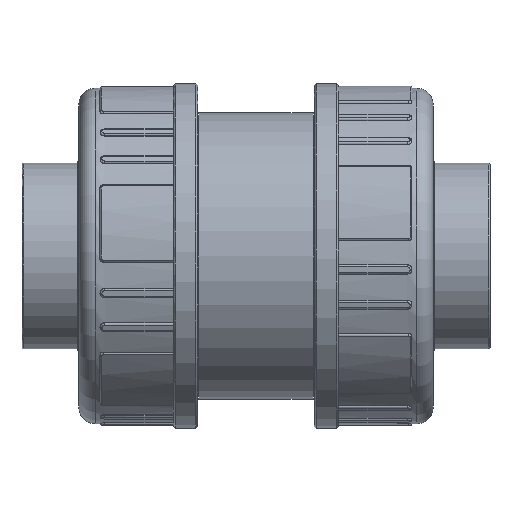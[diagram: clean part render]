
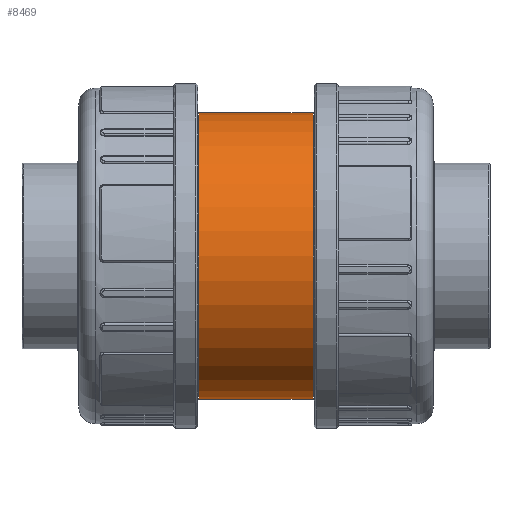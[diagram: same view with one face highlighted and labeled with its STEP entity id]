
A CAD part, left-side view. The second image highlights one B-rep face of the part: STEP entity #8469.
In plain terms, the highlighted cylindrical face has radius 69.75 mm (diameter 139.5 mm), a full revolution.
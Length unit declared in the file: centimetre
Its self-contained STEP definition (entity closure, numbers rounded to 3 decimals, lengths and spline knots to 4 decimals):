
#314=B_SPLINE_CURVE_WITH_KNOTS('',3,(#58087,#58088,#58089,#58090,#58091,
#58092,#58093,#58094,#58095,#58096,#58097,#58098,#58099,#58100,#58101,#58102,
#58103,#58104,#58105,#58106,#58107,#58108,#58109,#58110,#58111,#58112,#58113,
#58114,#58115,#58116,#58117,#58118,#58119,#58120,#58121,#58122,#58123,#58124,
#58125,#58126,#58127,#58128,#58129,#58130,#58131,#58132,#58133,#58134,#58135,
#58136,#58137,#58138,#58139,#58140,#58141,#58142,#58143,#58144,#58145,#58146,
#58147,#58148,#58149,#58150,#58151,#58152),.UNSPECIFIED.,.T.,.F.,(4,2,2,
2,2,2,2,2,2,2,2,2,2,2,2,2,2,2,2,2,2,2,2,2,2,2,2,2,2,2,2,2,4),(0.,0.4185,
0.837,1.2555,1.674,2.0923,2.5106,
2.929,3.3473,3.7657,4.184,4.6023,
5.0207,5.4392,5.8577,6.2762,6.6946,
7.1131,7.5316,7.9501,8.3686,8.787,
9.2053,9.6236,10.042,10.4603,10.8786,
11.297,11.7153,12.1338,12.5523,12.9708,
13.3893),.UNSPECIFIED.);
#1599=CYLINDRICAL_SURFACE('',#9250,6.975);
#1657=FACE_BOUND('',#2684,.T.);
#1658=FACE_BOUND('',#2685,.T.);
#2144=FACE_OUTER_BOUND('',#2683,.T.);
#2683=EDGE_LOOP('',(#7337));
#2684=EDGE_LOOP('',(#7338));
#2685=EDGE_LOOP('',(#7339));
#3115=CIRCLE('',#9251,6.975);
#3116=CIRCLE('',#9252,6.975);
#3856=VERTEX_POINT('',#58084);
#3857=VERTEX_POINT('',#58086);
#3858=VERTEX_POINT('',#58153);
#5023=EDGE_CURVE('',#3856,#3856,#3115,.T.);
#5024=EDGE_CURVE('',#3857,#3857,#314,.T.);
#5025=EDGE_CURVE('',#3858,#3858,#3116,.T.);
#7337=ORIENTED_EDGE('',*,*,#5023,.F.);
#7338=ORIENTED_EDGE('',*,*,#5024,.T.);
#7339=ORIENTED_EDGE('',*,*,#5025,.T.);
#8469=ADVANCED_FACE('',(#2144,#1657,#1658),#1599,.T.);
#9250=AXIS2_PLACEMENT_3D('',#58083,#11290,#11291);
#9251=AXIS2_PLACEMENT_3D('',#58085,#11292,#11293);
#9252=AXIS2_PLACEMENT_3D('',#58154,#11294,#11295);
#11290=DIRECTION('center_axis',(0.,-1.,0.));
#11291=DIRECTION('ref_axis',(-1.,0.,0.));
#11292=DIRECTION('center_axis',(0.,-1.,0.));
#11293=DIRECTION('ref_axis',(1.,0.,0.));
#11294=DIRECTION('center_axis',(0.,-1.,0.));
#11295=DIRECTION('ref_axis',(1.,0.,0.));
#58083=CARTESIAN_POINT('Origin',(0.,0.005,
0.));
#58084=CARTESIAN_POINT('',(-6.975,-2.78,0.));
#58085=CARTESIAN_POINT('Origin',(0.,-2.78,0.));
#58086=CARTESIAN_POINT('',(6.6173,0.,-2.205));
#58087=CARTESIAN_POINT('Ctrl Pts',(6.6173,0.,
-2.205));
#58088=CARTESIAN_POINT('Ctrl Pts',(6.6173,-0.1395,
-2.205));
#58089=CARTESIAN_POINT('Ctrl Pts',(6.6218,-0.2834,
-2.1915));
#58090=CARTESIAN_POINT('Ctrl Pts',(6.6402,-0.5691,
-2.1353));
#58091=CARTESIAN_POINT('Ctrl Pts',(6.654,-0.7108,
-2.0925));
#58092=CARTESIAN_POINT('Ctrl Pts',(6.6884,-0.9821,-1.9797));
#58093=CARTESIAN_POINT('Ctrl Pts',(6.709,-1.1119,-1.9096));
#58094=CARTESIAN_POINT('Ctrl Pts',(6.7529,-1.3518,-1.748));
#58095=CARTESIAN_POINT('Ctrl Pts',(6.7762,-1.4618,-1.6565));
#58096=CARTESIAN_POINT('Ctrl Pts',(6.8208,-1.6565,-1.4618));
#58097=CARTESIAN_POINT('Ctrl Pts',(6.8438,-1.748,-1.3518));
#58098=CARTESIAN_POINT('Ctrl Pts',(6.8869,-1.9096,-1.112));
#58099=CARTESIAN_POINT('Ctrl Pts',(6.9069,-1.9796,-0.9821));
#58100=CARTESIAN_POINT('Ctrl Pts',(6.94,-2.0925,-0.7108));
#58101=CARTESIAN_POINT('Ctrl Pts',(6.9532,-2.1353,-0.569));
#58102=CARTESIAN_POINT('Ctrl Pts',(6.9707,-2.1916,-0.2834));
#58103=CARTESIAN_POINT('Ctrl Pts',(6.975,-2.205,-0.1394));
#58104=CARTESIAN_POINT('Ctrl Pts',(6.975,-2.205,0.1394));
#58105=CARTESIAN_POINT('Ctrl Pts',(6.9707,-2.1916,0.2834));
#58106=CARTESIAN_POINT('Ctrl Pts',(6.9532,-2.1353,0.569));
#58107=CARTESIAN_POINT('Ctrl Pts',(6.94,-2.0925,0.7108));
#58108=CARTESIAN_POINT('Ctrl Pts',(6.9069,-1.9796,0.9821));
#58109=CARTESIAN_POINT('Ctrl Pts',(6.8869,-1.9096,1.112));
#58110=CARTESIAN_POINT('Ctrl Pts',(6.8438,-1.748,1.3518));
#58111=CARTESIAN_POINT('Ctrl Pts',(6.8208,-1.6565,1.4618));
#58112=CARTESIAN_POINT('Ctrl Pts',(6.7762,-1.4618,1.6565));
#58113=CARTESIAN_POINT('Ctrl Pts',(6.7529,-1.3518,1.748));
#58114=CARTESIAN_POINT('Ctrl Pts',(6.709,-1.1119,1.9096));
#58115=CARTESIAN_POINT('Ctrl Pts',(6.6884,-0.9821,1.9797));
#58116=CARTESIAN_POINT('Ctrl Pts',(6.654,-0.7108,
2.0925));
#58117=CARTESIAN_POINT('Ctrl Pts',(6.6402,-0.5691,
2.1353));
#58118=CARTESIAN_POINT('Ctrl Pts',(6.6218,-0.2834,
2.1915));
#58119=CARTESIAN_POINT('Ctrl Pts',(6.6173,-0.1395,
2.205));
#58120=CARTESIAN_POINT('Ctrl Pts',(6.6173,0.1395,2.205));
#58121=CARTESIAN_POINT('Ctrl Pts',(6.6218,0.2834,2.1915));
#58122=CARTESIAN_POINT('Ctrl Pts',(6.6402,0.5691,2.1353));
#58123=CARTESIAN_POINT('Ctrl Pts',(6.654,0.7108,2.0925));
#58124=CARTESIAN_POINT('Ctrl Pts',(6.6884,0.9821,1.9797));
#58125=CARTESIAN_POINT('Ctrl Pts',(6.709,1.1119,1.9096));
#58126=CARTESIAN_POINT('Ctrl Pts',(6.7529,1.3518,1.748));
#58127=CARTESIAN_POINT('Ctrl Pts',(6.7762,1.4618,1.6565));
#58128=CARTESIAN_POINT('Ctrl Pts',(6.8208,1.6565,1.4618));
#58129=CARTESIAN_POINT('Ctrl Pts',(6.8438,1.748,1.3518));
#58130=CARTESIAN_POINT('Ctrl Pts',(6.8869,1.9096,1.112));
#58131=CARTESIAN_POINT('Ctrl Pts',(6.9069,1.9796,0.9821));
#58132=CARTESIAN_POINT('Ctrl Pts',(6.94,2.0925,0.7108));
#58133=CARTESIAN_POINT('Ctrl Pts',(6.9532,2.1353,0.569));
#58134=CARTESIAN_POINT('Ctrl Pts',(6.9707,2.1916,0.2834));
#58135=CARTESIAN_POINT('Ctrl Pts',(6.975,2.205,0.1394));
#58136=CARTESIAN_POINT('Ctrl Pts',(6.975,2.205,-0.1394));
#58137=CARTESIAN_POINT('Ctrl Pts',(6.9707,2.1916,-0.2834));
#58138=CARTESIAN_POINT('Ctrl Pts',(6.9532,2.1353,-0.569));
#58139=CARTESIAN_POINT('Ctrl Pts',(6.94,2.0925,-0.7108));
#58140=CARTESIAN_POINT('Ctrl Pts',(6.9069,1.9796,-0.9821));
#58141=CARTESIAN_POINT('Ctrl Pts',(6.8869,1.9096,-1.112));
#58142=CARTESIAN_POINT('Ctrl Pts',(6.8438,1.748,-1.3518));
#58143=CARTESIAN_POINT('Ctrl Pts',(6.8208,1.6565,-1.4618));
#58144=CARTESIAN_POINT('Ctrl Pts',(6.7762,1.4618,-1.6565));
#58145=CARTESIAN_POINT('Ctrl Pts',(6.7529,1.3518,-1.748));
#58146=CARTESIAN_POINT('Ctrl Pts',(6.709,1.1119,-1.9096));
#58147=CARTESIAN_POINT('Ctrl Pts',(6.6884,0.9821,-1.9797));
#58148=CARTESIAN_POINT('Ctrl Pts',(6.654,0.7108,-2.0925));
#58149=CARTESIAN_POINT('Ctrl Pts',(6.6402,0.5691,-2.1353));
#58150=CARTESIAN_POINT('Ctrl Pts',(6.6218,0.2834,-2.1915));
#58151=CARTESIAN_POINT('Ctrl Pts',(6.6173,0.1395,-2.205));
#58152=CARTESIAN_POINT('Ctrl Pts',(6.6173,0.,-2.205));
#58153=CARTESIAN_POINT('',(-6.975,2.79,0.));
#58154=CARTESIAN_POINT('Origin',(0.,2.79,0.));
